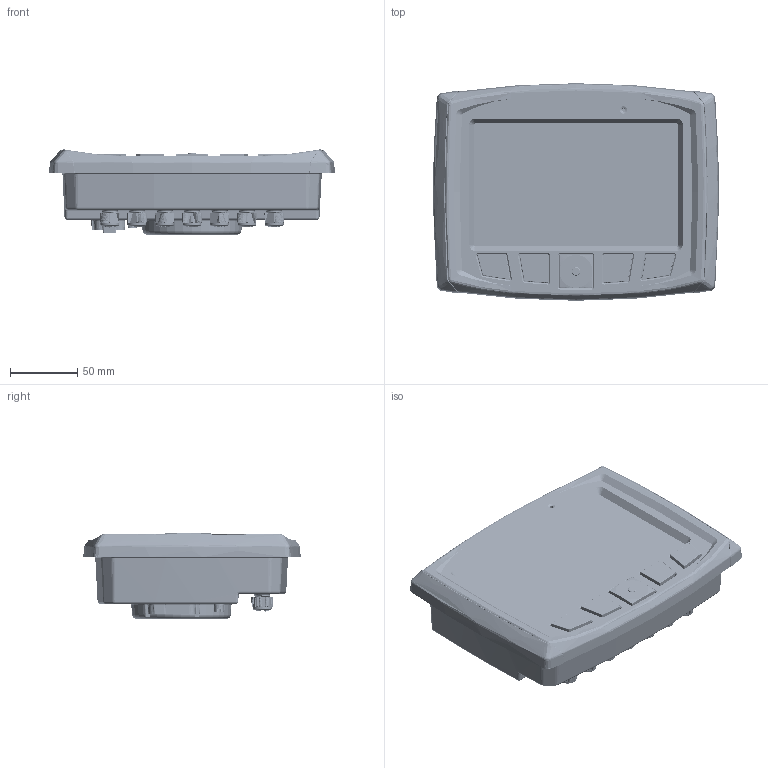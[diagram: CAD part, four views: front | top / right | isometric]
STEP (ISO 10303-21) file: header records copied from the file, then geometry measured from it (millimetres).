
FILE_DESCRIPTION (( 'STEP AP203' ), '1' );
FILE_NAME ('CL711100_Standard_Configuration.STEP', '2018-02-13T19:41:09', ( '' ), ( '' ), 'SwSTEP 2.0', 'SolidWorks 2018', '' );
FILE_SCHEMA (( 'CONFIG_CONTROL_DESIGN' ));
Products named in the file (1): CL711100_Standard_Configuration
Bounding box: 212.92 x 161.93 x 63.43 mm (x, y, z)
Volume: 437250.6 mm3; surface area: 584559 mm2
Topology: 67 solids, 68 shells, 10129 faces, 27763 edges, 18081 vertices
Faces by surface type: bspline 3553, cylinder 2798, plane 2274, cone 644, torus 590, sphere 270
Entity records: 486757 total; most frequent: CARTESIAN_POINT 262435, ORIENTED_EDGE 55330, DIRECTION 34930, EDGE_CURVE 27665, VERTEX_POINT 18077, AXIS2_PLACEMENT_3D 13865, B_SPLINE_CURVE_WITH_KNOTS 11493, EDGE_LOOP 10718
